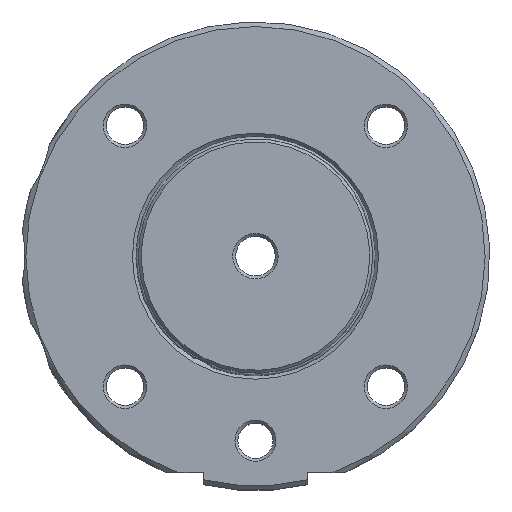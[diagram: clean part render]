
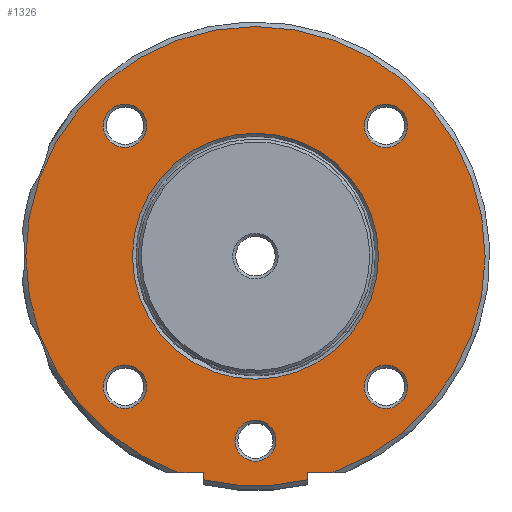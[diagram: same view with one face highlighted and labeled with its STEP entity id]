
A CAD part, top view. The second image highlights one B-rep face of the part: STEP entity #1326.
In plain terms, the highlighted planar face has unit normal (0, 0, 1).
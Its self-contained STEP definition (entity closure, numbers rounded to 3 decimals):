
#85=FACE_BOUND('',#221,.T.);
#86=FACE_BOUND('',#222,.T.);
#87=FACE_BOUND('',#223,.T.);
#88=FACE_BOUND('',#224,.T.);
#89=FACE_BOUND('',#225,.T.);
#90=FACE_BOUND('',#226,.T.);
#113=PLANE('',#1447);
#139=FACE_OUTER_BOUND('',#220,.T.);
#220=EDGE_LOOP('',(#894,#895,#896,#897,#898,#899));
#221=EDGE_LOOP('',(#900));
#222=EDGE_LOOP('',(#901));
#223=EDGE_LOOP('',(#902));
#224=EDGE_LOOP('',(#903));
#225=EDGE_LOOP('',(#904));
#226=EDGE_LOOP('',(#905));
#314=LINE('',#2062,#377);
#315=LINE('',#2064,#378);
#316=LINE('',#2068,#379);
#317=LINE('',#2069,#380);
#377=VECTOR('',#1670,10.);
#378=VECTOR('',#1671,10.);
#379=VECTOR('',#1674,10.);
#380=VECTOR('',#1675,10.);
#450=CIRCLE('',#1446,21.);
#451=CIRCLE('',#1448,39.2);
#452=CIRCLE('',#1449,39.2);
#453=CIRCLE('',#1450,3.7);
#454=CIRCLE('',#1451,3.7);
#455=CIRCLE('',#1452,3.7);
#456=CIRCLE('',#1453,3.5);
#457=CIRCLE('',#1454,3.7);
#545=VERTEX_POINT('',#2054);
#546=VERTEX_POINT('',#2058);
#547=VERTEX_POINT('',#2059);
#548=VERTEX_POINT('',#2061);
#549=VERTEX_POINT('',#2063);
#550=VERTEX_POINT('',#2065);
#551=VERTEX_POINT('',#2067);
#552=VERTEX_POINT('',#2070);
#553=VERTEX_POINT('',#2072);
#554=VERTEX_POINT('',#2074);
#555=VERTEX_POINT('',#2076);
#556=VERTEX_POINT('',#2078);
#677=EDGE_CURVE('',#545,#545,#450,.T.);
#679=EDGE_CURVE('',#546,#547,#451,.T.);
#680=EDGE_CURVE('',#546,#548,#314,.T.);
#681=EDGE_CURVE('',#548,#549,#315,.T.);
#682=EDGE_CURVE('',#550,#549,#452,.T.);
#683=EDGE_CURVE('',#550,#551,#316,.T.);
#684=EDGE_CURVE('',#551,#547,#317,.T.);
#685=EDGE_CURVE('',#552,#552,#453,.T.);
#686=EDGE_CURVE('',#553,#553,#454,.T.);
#687=EDGE_CURVE('',#554,#554,#455,.T.);
#688=EDGE_CURVE('',#555,#555,#456,.T.);
#689=EDGE_CURVE('',#556,#556,#457,.T.);
#894=ORIENTED_EDGE('',*,*,#679,.F.);
#895=ORIENTED_EDGE('',*,*,#680,.T.);
#896=ORIENTED_EDGE('',*,*,#681,.T.);
#897=ORIENTED_EDGE('',*,*,#682,.F.);
#898=ORIENTED_EDGE('',*,*,#683,.T.);
#899=ORIENTED_EDGE('',*,*,#684,.T.);
#900=ORIENTED_EDGE('',*,*,#685,.F.);
#901=ORIENTED_EDGE('',*,*,#686,.F.);
#902=ORIENTED_EDGE('',*,*,#687,.F.);
#903=ORIENTED_EDGE('',*,*,#688,.F.);
#904=ORIENTED_EDGE('',*,*,#689,.F.);
#905=ORIENTED_EDGE('',*,*,#677,.F.);
#1326=ADVANCED_FACE('',(#139,#85,#86,#87,#88,#89,#90),#113,.T.);
#1446=AXIS2_PLACEMENT_3D('',#2055,#1663,#1664);
#1447=AXIS2_PLACEMENT_3D('',#2057,#1666,#1667);
#1448=AXIS2_PLACEMENT_3D('',#2060,#1668,#1669);
#1449=AXIS2_PLACEMENT_3D('',#2066,#1672,#1673);
#1450=AXIS2_PLACEMENT_3D('',#2071,#1676,#1677);
#1451=AXIS2_PLACEMENT_3D('',#2073,#1678,#1679);
#1452=AXIS2_PLACEMENT_3D('',#2075,#1680,#1681);
#1453=AXIS2_PLACEMENT_3D('',#2077,#1682,#1683);
#1454=AXIS2_PLACEMENT_3D('',#2079,#1684,#1685);
#1663=DIRECTION('center_axis',(0.,0.,
1.));
#1664=DIRECTION('ref_axis',(-1.,0.,0.));
#1666=DIRECTION('center_axis',(0.,0.,
1.));
#1667=DIRECTION('ref_axis',(1.,0.,0.));
#1668=DIRECTION('center_axis',(0.,0.,
-1.));
#1669=DIRECTION('ref_axis',(-1.,0.,0.));
#1670=DIRECTION('',(0.,1.,0.));
#1671=DIRECTION('',(1.,0.,0.));
#1672=DIRECTION('center_axis',(0.,0.,
-1.));
#1673=DIRECTION('ref_axis',(-1.,0.,0.));
#1674=DIRECTION('',(1.,0.,0.));
#1675=DIRECTION('',(0.,-1.,0.));
#1676=DIRECTION('center_axis',(0.,0.,
1.));
#1677=DIRECTION('ref_axis',(-1.,0.,0.));
#1678=DIRECTION('center_axis',(0.,0.,
1.));
#1679=DIRECTION('ref_axis',(-1.,0.,0.));
#1680=DIRECTION('center_axis',(0.,0.,
1.));
#1681=DIRECTION('ref_axis',(-1.,0.,0.));
#1682=DIRECTION('center_axis',(0.,0.,
1.));
#1683=DIRECTION('ref_axis',(-1.,0.,0.));
#1684=DIRECTION('center_axis',(0.,0.,
1.));
#1685=DIRECTION('ref_axis',(-1.,0.,0.));
#2054=CARTESIAN_POINT('',(21.,0.,64.5));
#2055=CARTESIAN_POINT('Origin',(0.,0.,
64.5));
#2057=CARTESIAN_POINT('Origin',(0.,0.,
64.5));
#2058=CARTESIAN_POINT('',(8.95,-38.165,64.5));
#2059=CARTESIAN_POINT('',(-8.95,-38.165,64.5));
#2060=CARTESIAN_POINT('Origin',(0.,0.,
64.5));
#2061=CARTESIAN_POINT('',(8.95,-36.9,64.5));
#2062=CARTESIAN_POINT('',(8.95,-18.45,64.5));
#2063=CARTESIAN_POINT('',(13.23,-36.9,64.5));
#2064=CARTESIAN_POINT('',(7.72,-36.9,64.5));
#2065=CARTESIAN_POINT('',(-13.23,-36.9,64.5));
#2066=CARTESIAN_POINT('Origin',(0.,0.,
64.5));
#2067=CARTESIAN_POINT('',(-8.95,-36.9,64.5));
#2068=CARTESIAN_POINT('',(-4.475,-36.9,64.5));
#2069=CARTESIAN_POINT('',(-8.95,-19.493,64.5));
#2070=CARTESIAN_POINT('',(25.974,-22.274,64.5));
#2071=CARTESIAN_POINT('Origin',(22.274,-22.274,64.5));
#2072=CARTESIAN_POINT('',(-18.574,-22.274,64.5));
#2073=CARTESIAN_POINT('Origin',(-22.274,-22.274,64.5));
#2074=CARTESIAN_POINT('',(-18.574,22.274,64.5));
#2075=CARTESIAN_POINT('Origin',(-22.274,22.274,64.5));
#2076=CARTESIAN_POINT('',(3.5,-31.5,64.5));
#2077=CARTESIAN_POINT('Origin',(0.,-31.5,64.5));
#2078=CARTESIAN_POINT('',(25.974,22.274,64.5));
#2079=CARTESIAN_POINT('Origin',(22.274,22.274,64.5));
